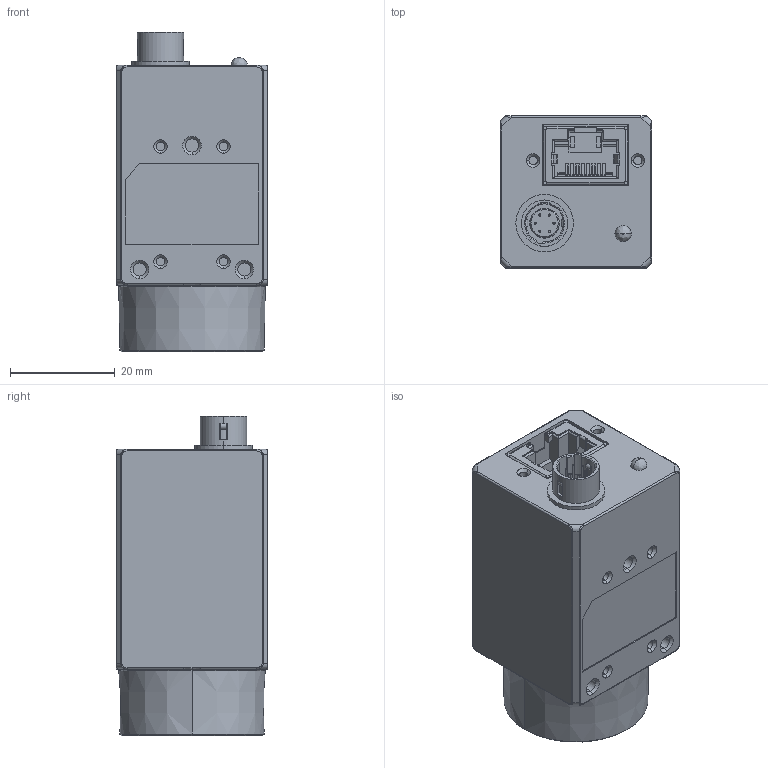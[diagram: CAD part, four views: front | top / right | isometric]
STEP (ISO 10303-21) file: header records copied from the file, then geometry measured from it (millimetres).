
FILE_DESCRIPTION((''),'2;1');
FILE_NAME('MV-600W-3D_2_1','2020-03-11T10:47:45',('wangyijun6'),(''),'CREO PARAMETRIC BY PTC INC, 2017260','CREO PARAMETRIC BY PTC INC, 2017260','');
FILE_SCHEMA(('CONFIG_CONTROL_DESIGN'));
Length unit declared in the file: millimetre
Products named in the file (1): MV-600W-3D_2_1
Bounding box: 29 x 29 x 60.98 mm (x, y, z)
Volume: 34044.6 mm3; surface area: 14326.3 mm2
Topology: 1 solids, 1 shells, 1196 faces, 3515 edges, 2292 vertices
Faces by surface type: plane 805, cylinder 322, bspline 36, cone 31, torus 2
Entity records: 41948 total; most frequent: CARTESIAN_POINT 10072, ORIENTED_EDGE 7030, DIRECTION 6217, EDGE_CURVE 3515, VECTOR 2541, LINE 2541, VERTEX_POINT 2292, AXIS2_PLACEMENT_3D 1838
